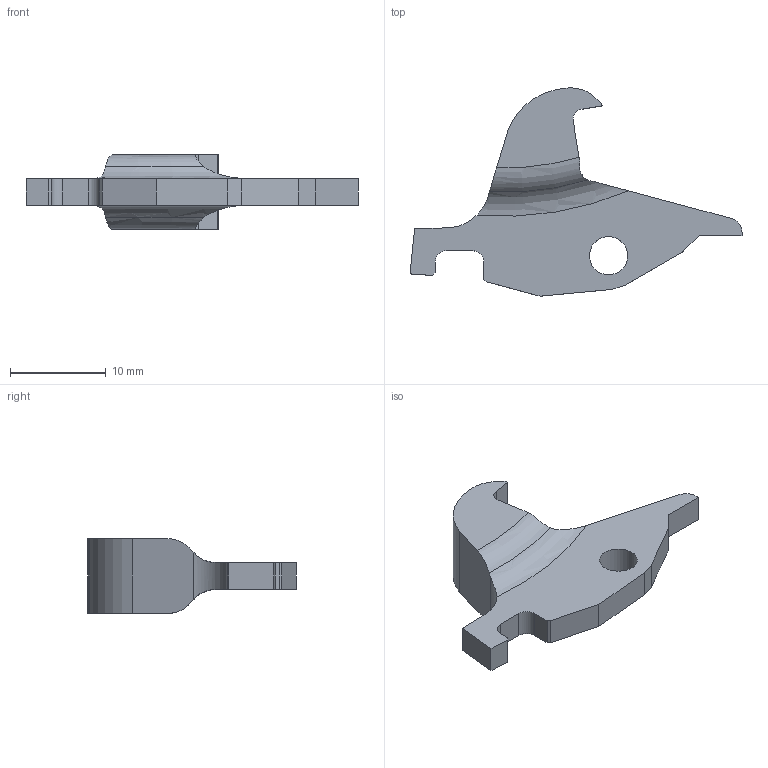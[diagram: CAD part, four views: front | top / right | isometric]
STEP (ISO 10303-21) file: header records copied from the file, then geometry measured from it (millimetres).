
FILE_DESCRIPTION(/* description */ (''),/* implementation_level */ '2;1');
FILE_NAME(/* name */ 'D:/Pew Pews/FGC-9_MkII_Stingray_Edition/Stingray Edition/.step files/2 - Lower/Disconnector.step',/* time_stamp */ '2022-05-12T09:36:32-06:00',/* author */ (''),/* organization */ (''),/* preprocessor_version */ 'ST-DEVELOPER v18.1',/* originating_system */ 'Autodesk Translation Framework v10.10.0.1391',/* authorisation */ '');
FILE_SCHEMA (('AUTOMOTIVE_DESIGN { 1 0 10303 214 3 1 1 }'));
Length unit declared in the file: millimetre
Products named in the file (1): Disconnector
Bounding box: 34.75 x 21.8 x 7.82 mm (x, y, z)
Volume: 1279.6 mm3; surface area: 1116.7 mm2
Topology: 1 solids, 1 shells, 42 faces, 120 edges, 80 vertices
Faces by surface type: plane 27, cylinder 11, torus 4
Full cylindrical faces by diameter (mm): 4 x1
Entity records: 1476 total; most frequent: CARTESIAN_POINT 331, ORIENTED_EDGE 240, DIRECTION 220, EDGE_CURVE 120, VERTEX_POINT 80, LINE 78, VECTOR 78, AXIS2_PLACEMENT_3D 71
